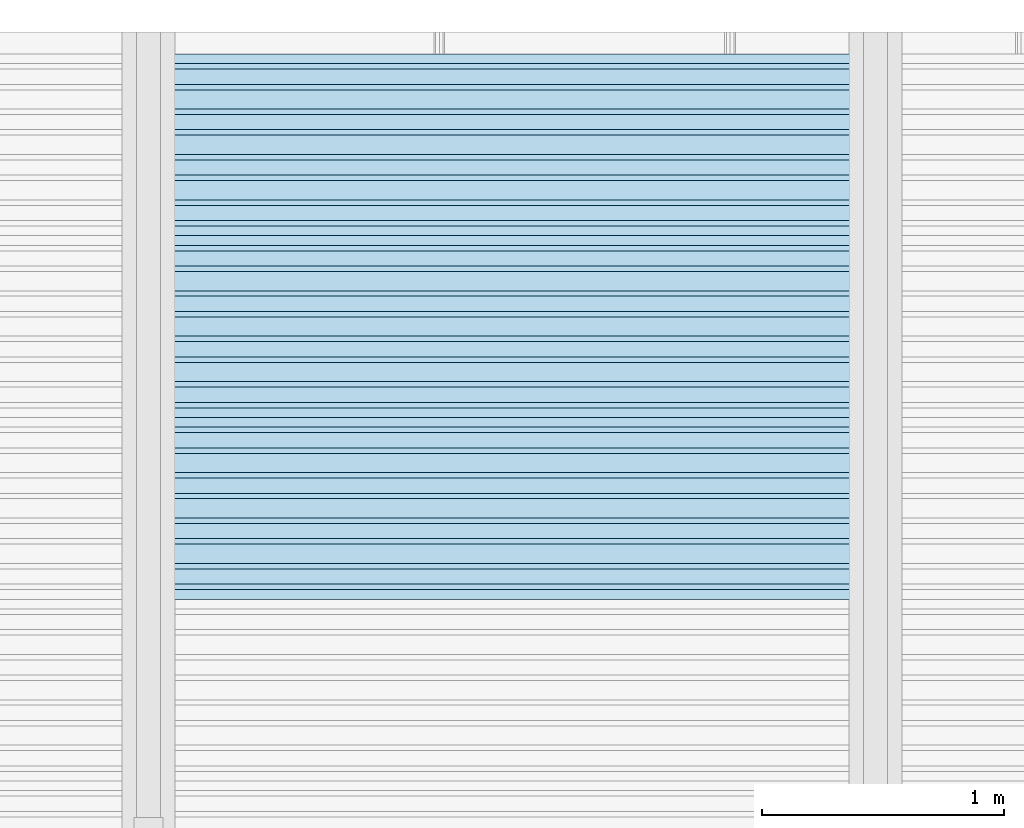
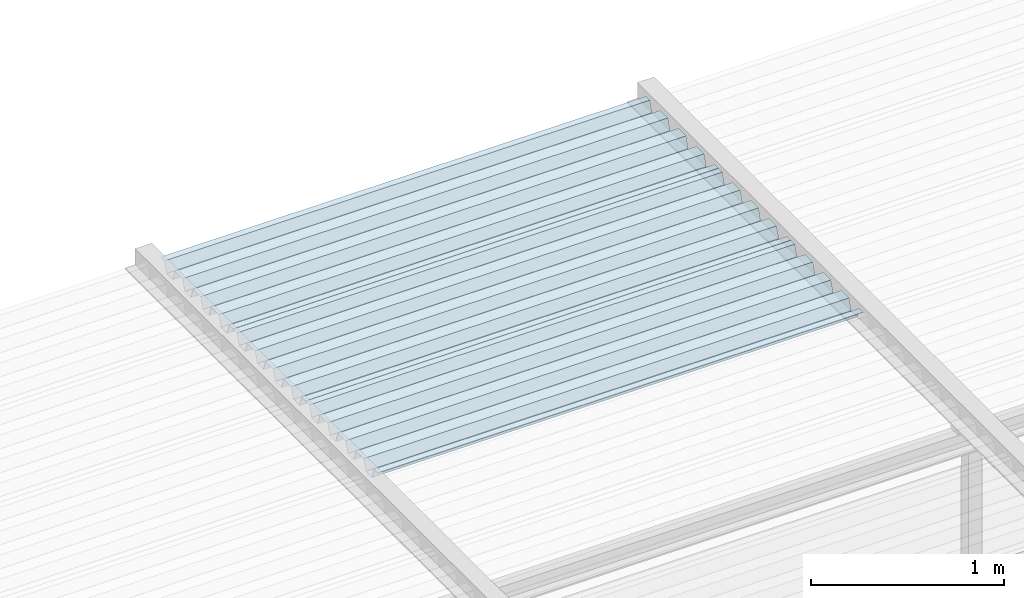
# One storey, part 89 of 98: 3 slabs.
"""IFC2X3 building model written with IfcOpenShell, lengths in millimetres."""

from ifc_helpers import new_model, entity, si_unit, converted_unit, derived_unit, direction, frame, origin_with_axes, place, context, subcontext, project, spatial, faceted_brep, material, type_object, element, save


model = new_model("IFC2X3")

# Units and contexts
model_context = context("Model", 3, precision=0.01, world=frame((0.0, 4.29681676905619e-09, 0.0)), true_north=direction((4.01073788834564e-13, 1.0)))
plan_context = context("Plan", 3, precision=0.01, world=frame((0.0, 4.29681676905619e-09, 0.0)), true_north=direction((4.01073788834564e-13, 1.0)))
body_context = subcontext(model_context, "Body", "Model", "MODEL_VIEW")
ifc_project = project(units=[converted_unit("PLANEANGLEUNIT", "DEGREE", entity("IfcPositiveLengthMeasure", 0.0174532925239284), si_unit("PLANEANGLEUNIT", "RADIAN"), dimensions=[0, 0, 0, 0, 0, 0, 0]), si_unit("AREAUNIT", "SQUARE_METRE"), si_unit("LENGTHUNIT", "METRE", prefix="MILLI"), si_unit("MASSUNIT", "GRAM", prefix="KILO"), si_unit("POWERUNIT", "WATT"), si_unit("PRESSUREUNIT", "PASCAL"), si_unit("FORCEUNIT", "NEWTON", prefix="KILO"), si_unit("ELECTRICCURRENTUNIT", "AMPERE"), si_unit("THERMODYNAMICTEMPERATUREUNIT", "DEGREE_CELSIUS"), si_unit("TIMEUNIT", "SECOND"), si_unit("VOLUMEUNIT", "CUBIC_METRE"), derived_unit("LINEARVELOCITYUNIT", [(si_unit("LENGTHUNIT", "METRE"), 1), (si_unit("TIMEUNIT", "SECOND"), -1)]), derived_unit("VOLUMETRICFLOWRATEUNIT", [(si_unit("VOLUMEUNIT", "CUBIC_METRE"), 1), (si_unit("TIMEUNIT", "SECOND"), -1)]), derived_unit("THERMALTRANSMITTANCEUNIT", [(si_unit("POWERUNIT", "WATT"), 1), (si_unit("THERMODYNAMICTEMPERATUREUNIT", "KELVIN"), -1), (si_unit("AREAUNIT", "SQUARE_METRE"), -1)])], contexts=[model_context, plan_context])

# Site, building, storey
site_placement = place(None, frame((0.0, -4.29681676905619e-09, 0.0), z_axis=(0.0, 0.0, 1.0), x_axis=(1.0, 0.0, 0.0)))
site = spatial("IfcSite", under=ifc_project, at=site_placement, Name="Gardermoen", CompositionType="ELEMENT")
building_placement = place(site_placement, frame((0.0, 4.29681676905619e-09, 0.0), z_axis=(0.0, 0.0, 1.0), x_axis=(1.0, 0.0, 0.0)))
building = spatial("IfcBuilding", under=site, at=building_placement, Name="TS", CompositionType="ELEMENT")
storey_placement = place(building_placement, origin_with_axes())
storey = spatial("IfcBuildingStorey", under=building, at=storey_placement, Name="D", CompositionType="ELEMENT", Elevation=0.0)

# Slabs
ifc_material = material(Name="STEEL/S355")
slab_type = type_object("IfcSlabType", Name="PLANJA70", PredefinedType="NOTDEFINED")
slab_1_placement = place(storey_placement, frame((525950.000000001, 418904.996695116, 206958.849718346), z_axis=(0.0, 0.0, 1.0), x_axis=(-0.999999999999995, -9.99999902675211e-08, 0.0)))
element("IfcSlab", 1, at=slab_1_placement, inside=storey, type_object=slab_type, material=ifc_material, Name="STÅLTAK", ObjectType="PLANJA70", PredefinedType="FLOOR", context=body_context, shape_type="Brep", body=[
    faceted_brep([(0.0, 375.0, 34.1500015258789), (0.0, 335.299987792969, 34.1500015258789), (2900.00079747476, 335.299987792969, 34.1500015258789), (2900.00079747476, 375.0, 34.1500015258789), (0.0, 313.010681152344, -32.1500015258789), (2900.00079747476, 313.010681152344, -32.1500015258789), (0.0, 249.489303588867, -32.1500015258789), (2900.00079747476, 249.489303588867, -32.1500015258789), (0.0, 227.199996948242, 34.1500015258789), (2900.00079747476, 227.199996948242, 34.1500015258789), (0.0, 147.800003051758, 34.1500015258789), (2900.00079747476, 147.800003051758, 34.1500015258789), (0.0, 125.280120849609, -33.1500015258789), (2900.00079747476, 125.280120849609, -33.1500015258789), (0.0, 62.2198791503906, -33.1500015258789), (2900.00079747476, 62.2198791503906, -33.1500015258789), (0.0, 39.7000007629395, 34.1500015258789), (2900.00079747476, 39.7000007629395, 34.1500015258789), (0.0, -39.7000007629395, 34.1500015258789), (2900.00079747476, -39.7000007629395, 34.1500015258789), (0.0, -62.2198791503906, -33.1500015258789), (2900.00079747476, -62.2198791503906, -33.1500015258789), (0.0, -125.280120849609, -33.1500015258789), (2900.00079747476, -125.280120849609, -33.1500015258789), (0.0, -147.800003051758, 34.1500015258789), (2900.00079747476, -147.800003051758, 34.1500015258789), (0.0, -227.199996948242, 34.1500015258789), (2900.00079747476, -227.199996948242, 34.1500015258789), (0.0, -249.719879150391, -33.1500015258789), (2900.00079747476, -249.719879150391, -33.1500015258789), (0.0, -312.781188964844, -33.1500015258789), (2900.00079747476, -312.781188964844, -33.1500015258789), (0.0, -335.070495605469, 33.1500015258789), (2900.00079747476, -335.070495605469, 33.1500015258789), (0.0, -375.0, 33.1500015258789), (2900.00079747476, -375.0, 33.1500015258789), (0.0, -375.0, 32.1500015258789), (2900.00079747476, -375.0, 32.1500015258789), (0.0, -335.789306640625, 32.1500015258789), (2900.00079747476, -335.789306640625, 32.1500015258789), (0.0, -313.5, -34.1500015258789), (2900.00079747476, -313.5, -34.1500015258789), (0.0, -249.0, -34.1500015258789), (2900.00079747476, -249.0, -34.1500015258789), (0.0, -226.480117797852, 33.1500015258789), (2900.00079747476, -226.480117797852, 33.1500015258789), (0.0, -148.519882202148, 33.1500015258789), (2900.00079747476, -148.519882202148, 33.1500015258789), (0.0, -126.0, -34.1500015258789), (2900.00079747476, -126.0, -34.1500015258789), (0.0, -61.5, -34.1500015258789), (2900.00079747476, -61.5, -34.1500015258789), (0.0, -38.9801177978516, 33.1500015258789), (2900.00079747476, -38.9801177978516, 33.1500015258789), (0.0, 38.9801177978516, 33.1500015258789), (2900.00079747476, 38.9801177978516, 33.1500015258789), (0.0, 61.5, -34.1500015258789), (2900.00079747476, 61.5, -34.1500015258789), (0.0, 126.0, -34.1500015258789), (2900.00079747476, 126.0, -34.1500015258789), (0.0, 148.519882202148, 33.1500015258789), (2900.00079747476, 148.519882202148, 33.1500015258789), (0.0, 226.481185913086, 33.1500015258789), (2900.00079747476, 226.481185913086, 33.1500015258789), (0.0, 248.770492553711, -33.1500015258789), (2900.00079747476, 248.770492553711, -33.1500015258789), (0.0, 313.7294921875, -33.1500015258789), (2900.00079747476, 313.7294921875, -33.1500015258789), (0.0, 336.018798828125, 33.1500015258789), (2900.00079747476, 336.018798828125, 33.1500015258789), (0.0, 375.0, 33.1500015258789), (2900.00079747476, 375.0, 33.1500015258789)], [[[0, 1, 2, 3]], [[1, 4, 5, 2]], [[4, 6, 7, 5]], [[6, 8, 9, 7]], [[8, 10, 11, 9]], [[10, 12, 13, 11]], [[12, 14, 15, 13]], [[14, 16, 17, 15]], [[16, 18, 19, 17]], [[18, 20, 21, 19]], [[22, 23, 21, 20]], [[22, 24, 25, 23]], [[24, 26, 27, 25]], [[26, 28, 29, 27]], [[28, 30, 31, 29]], [[30, 32, 33, 31]], [[32, 34, 35, 33]], [[34, 36, 37, 35]], [[36, 38, 39, 37]], [[38, 40, 41, 39]], [[40, 42, 43, 41]], [[42, 44, 45, 43]], [[44, 46, 47, 45]], [[46, 48, 49, 47]], [[48, 50, 51, 49]], [[50, 52, 53, 51]], [[52, 54, 55, 53]], [[54, 56, 57, 55]], [[56, 58, 59, 57]], [[58, 60, 61, 59]], [[60, 62, 63, 61]], [[62, 64, 65, 63]], [[64, 66, 67, 65]], [[66, 68, 69, 67]], [[68, 70, 71, 69]], [[70, 0, 3, 71]], [[5, 7, 9, 11, 13, 15, 17, 19, 21, 23, 25, 27, 29, 31, 33, 35, 37, 39, 41, 43, 45, 47, 49, 51, 53, 55, 57, 59, 61, 63, 65, 67, 69, 71, 3, 2]], [[70, 68, 66, 64, 62, 60, 58, 56, 54, 52, 50, 48, 46, 44, 42, 40, 38, 36, 34, 32, 30, 28, 26, 24, 22, 20, 18, 16, 14, 12, 10, 8, 6, 4, 1, 0]]]),
])
slab_2_placement = place(storey_placement, frame((525950.000000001, 419654.996695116, 206958.849718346), z_axis=(0.0, 0.0, 1.0), x_axis=(-0.999999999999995, -9.99999902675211e-08, 0.0)))
element("IfcSlab", 2, at=slab_2_placement, inside=storey, type_object=slab_type, material=ifc_material, Name="STÅLTAK", ObjectType="PLANJA70", PredefinedType="FLOOR", context=body_context, shape_type="Brep", body=[
    faceted_brep([(0.0, 375.0, 34.1500015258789), (0.0, 335.299987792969, 34.1500015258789), (2900.00079747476, 335.299987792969, 34.1500015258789), (2900.00079747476, 375.0, 34.1500015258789), (0.0, 313.010681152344, -32.1500015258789), (2900.00079747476, 313.010681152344, -32.1500015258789), (0.0, 249.489303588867, -32.1500015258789), (2900.00079747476, 249.489303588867, -32.1500015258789), (0.0, 227.199996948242, 34.1500015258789), (2900.00079747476, 227.199996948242, 34.1500015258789), (0.0, 147.800003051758, 34.1500015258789), (2900.00079747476, 147.800003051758, 34.1500015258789), (0.0, 125.280120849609, -33.1500015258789), (2900.00079747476, 125.280120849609, -33.1500015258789), (0.0, 62.2198791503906, -33.1500015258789), (2900.00079747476, 62.2198791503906, -33.1500015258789), (0.0, 39.7000007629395, 34.1500015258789), (2900.00079747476, 39.7000007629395, 34.1500015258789), (0.0, -39.7000007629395, 34.1500015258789), (2900.00079747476, -39.7000007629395, 34.1500015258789), (0.0, -62.2198791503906, -33.1500015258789), (2900.00079747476, -62.2198791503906, -33.1500015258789), (0.0, -125.280120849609, -33.1500015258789), (2900.00079747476, -125.280120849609, -33.1500015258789), (0.0, -147.800003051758, 34.1500015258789), (2900.00079747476, -147.800003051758, 34.1500015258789), (0.0, -227.199996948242, 34.1500015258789), (2900.00079747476, -227.199996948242, 34.1500015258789), (0.0, -249.719879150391, -33.1500015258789), (2900.00079747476, -249.719879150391, -33.1500015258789), (0.0, -312.781188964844, -33.1500015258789), (2900.00079747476, -312.781188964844, -33.1500015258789), (0.0, -335.070495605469, 33.1500015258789), (2900.00079747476, -335.070495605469, 33.1500015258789), (0.0, -375.0, 33.1500015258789), (2900.00079747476, -375.0, 33.1500015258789), (0.0, -375.0, 32.1500015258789), (2900.00079747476, -375.0, 32.1500015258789), (0.0, -335.789306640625, 32.1500015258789), (2900.00079747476, -335.789306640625, 32.1500015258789), (0.0, -313.5, -34.1500015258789), (2900.00079747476, -313.5, -34.1500015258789), (0.0, -249.0, -34.1500015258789), (2900.00079747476, -249.0, -34.1500015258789), (0.0, -226.480117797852, 33.1500015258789), (2900.00079747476, -226.480117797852, 33.1500015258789), (0.0, -148.519882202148, 33.1500015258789), (2900.00079747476, -148.519882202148, 33.1500015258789), (0.0, -126.0, -34.1500015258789), (2900.00079747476, -126.0, -34.1500015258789), (0.0, -61.5, -34.1500015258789), (2900.00079747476, -61.5, -34.1500015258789), (0.0, -38.9801177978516, 33.1500015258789), (2900.00079747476, -38.9801177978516, 33.1500015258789), (0.0, 38.9801177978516, 33.1500015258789), (2900.00079747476, 38.9801177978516, 33.1500015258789), (0.0, 61.5, -34.1500015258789), (2900.00079747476, 61.5, -34.1500015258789), (0.0, 126.0, -34.1500015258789), (2900.00079747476, 126.0, -34.1500015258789), (0.0, 148.519882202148, 33.1500015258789), (2900.00079747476, 148.519882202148, 33.1500015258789), (0.0, 226.481185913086, 33.1500015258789), (2900.00079747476, 226.481185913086, 33.1500015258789), (0.0, 248.770492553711, -33.1500015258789), (2900.00079747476, 248.770492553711, -33.1500015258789), (0.0, 313.7294921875, -33.1500015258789), (2900.00079747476, 313.7294921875, -33.1500015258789), (0.0, 336.018798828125, 33.1500015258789), (2900.00079747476, 336.018798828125, 33.1500015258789), (0.0, 375.0, 33.1500015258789), (2900.00079747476, 375.0, 33.1500015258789)], [[[0, 1, 2, 3]], [[1, 4, 5, 2]], [[4, 6, 7, 5]], [[6, 8, 9, 7]], [[8, 10, 11, 9]], [[10, 12, 13, 11]], [[12, 14, 15, 13]], [[14, 16, 17, 15]], [[16, 18, 19, 17]], [[18, 20, 21, 19]], [[22, 23, 21, 20]], [[22, 24, 25, 23]], [[24, 26, 27, 25]], [[26, 28, 29, 27]], [[28, 30, 31, 29]], [[30, 32, 33, 31]], [[32, 34, 35, 33]], [[34, 36, 37, 35]], [[36, 38, 39, 37]], [[38, 40, 41, 39]], [[40, 42, 43, 41]], [[42, 44, 45, 43]], [[44, 46, 47, 45]], [[46, 48, 49, 47]], [[48, 50, 51, 49]], [[50, 52, 53, 51]], [[52, 54, 55, 53]], [[54, 56, 57, 55]], [[56, 58, 59, 57]], [[58, 60, 61, 59]], [[60, 62, 63, 61]], [[62, 64, 65, 63]], [[64, 66, 67, 65]], [[66, 68, 69, 67]], [[68, 70, 71, 69]], [[70, 0, 3, 71]], [[5, 7, 9, 11, 13, 15, 17, 19, 21, 23, 25, 27, 29, 31, 33, 35, 37, 39, 41, 43, 45, 47, 49, 51, 53, 55, 57, 59, 61, 63, 65, 67, 69, 71, 3, 2]], [[70, 68, 66, 64, 62, 60, 58, 56, 54, 52, 50, 48, 46, 44, 42, 40, 38, 36, 34, 32, 30, 28, 26, 24, 22, 20, 18, 16, 14, 12, 10, 8, 6, 4, 1, 0]]]),
])
slab_3_placement = place(storey_placement, frame((525950.000000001, 420404.996695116, 206958.849718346), z_axis=(0.0, 0.0, 1.0), x_axis=(-0.999999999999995, -9.99999902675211e-08, 0.0)))
element("IfcSlab", 3, at=slab_3_placement, inside=storey, type_object=slab_type, material=ifc_material, Name="STÅLTAK", ObjectType="PLANJA70", PredefinedType="FLOOR", context=body_context, shape_type="Brep", body=[
    faceted_brep([(0.0, 375.0, 34.1500015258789), (0.0, 335.299987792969, 34.1500015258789), (2900.00079747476, 335.299987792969, 34.1500015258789), (2900.00079747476, 375.0, 34.1500015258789), (0.0, 313.010681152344, -32.1500015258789), (2900.00079747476, 313.010681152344, -32.1500015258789), (0.0, 249.489303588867, -32.1500015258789), (2900.00079747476, 249.489303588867, -32.1500015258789), (0.0, 227.199996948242, 34.1500015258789), (2900.00079747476, 227.199996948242, 34.1500015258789), (0.0, 147.800003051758, 34.1500015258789), (2900.00079747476, 147.800003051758, 34.1500015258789), (0.0, 125.280120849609, -33.1500015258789), (2900.00079747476, 125.280120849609, -33.1500015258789), (0.0, 62.2198791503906, -33.1500015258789), (2900.00079747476, 62.2198791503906, -33.1500015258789), (0.0, 39.7000007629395, 34.1500015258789), (2900.00079747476, 39.7000007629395, 34.1500015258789), (0.0, -39.7000007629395, 34.1500015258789), (2900.00079747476, -39.7000007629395, 34.1500015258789), (0.0, -62.2198791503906, -33.1500015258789), (2900.00079747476, -62.2198791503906, -33.1500015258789), (0.0, -125.280120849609, -33.1500015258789), (2900.00079747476, -125.280120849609, -33.1500015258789), (0.0, -147.800003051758, 34.1500015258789), (2900.00079747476, -147.800003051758, 34.1500015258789), (0.0, -227.199996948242, 34.1500015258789), (2900.00079747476, -227.199996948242, 34.1500015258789), (0.0, -249.719879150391, -33.1500015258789), (2900.00079747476, -249.719879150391, -33.1500015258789), (0.0, -312.781188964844, -33.1500015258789), (2900.00079747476, -312.781188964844, -33.1500015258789), (0.0, -335.070495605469, 33.1500015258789), (2900.00079747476, -335.070495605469, 33.1500015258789), (0.0, -375.0, 33.1500015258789), (2900.00079747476, -375.0, 33.1500015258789), (0.0, -375.0, 32.1500015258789), (2900.00079747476, -375.0, 32.1500015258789), (0.0, -335.789306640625, 32.1500015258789), (2900.00079747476, -335.789306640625, 32.1500015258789), (0.0, -313.5, -34.1500015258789), (2900.00079747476, -313.5, -34.1500015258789), (0.0, -249.0, -34.1500015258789), (2900.00079747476, -249.0, -34.1500015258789), (0.0, -226.480117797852, 33.1500015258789), (2900.00079747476, -226.480117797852, 33.1500015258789), (0.0, -148.519882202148, 33.1500015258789), (2900.00079747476, -148.519882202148, 33.1500015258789), (0.0, -126.0, -34.1500015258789), (2900.00079747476, -126.0, -34.1500015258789), (0.0, -61.5, -34.1500015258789), (2900.00079747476, -61.5, -34.1500015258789), (0.0, -38.9801177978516, 33.1500015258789), (2900.00079747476, -38.9801177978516, 33.1500015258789), (0.0, 38.9801177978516, 33.1500015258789), (2900.00079747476, 38.9801177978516, 33.1500015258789), (0.0, 61.5, -34.1500015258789), (2900.00079747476, 61.5, -34.1500015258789), (0.0, 126.0, -34.1500015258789), (2900.00079747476, 126.0, -34.1500015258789), (0.0, 148.519882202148, 33.1500015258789), (2900.00079747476, 148.519882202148, 33.1500015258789), (0.0, 226.481185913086, 33.1500015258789), (2900.00079747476, 226.481185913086, 33.1500015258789), (0.0, 248.770492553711, -33.1500015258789), (2900.00079747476, 248.770492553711, -33.1500015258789), (0.0, 313.7294921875, -33.1500015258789), (2900.00079747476, 313.7294921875, -33.1500015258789), (0.0, 336.018798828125, 33.1500015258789), (2900.00079747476, 336.018798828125, 33.1500015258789), (0.0, 375.0, 33.1500015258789), (2900.00079747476, 375.0, 33.1500015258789)], [[[0, 1, 2, 3]], [[1, 4, 5, 2]], [[4, 6, 7, 5]], [[6, 8, 9, 7]], [[8, 10, 11, 9]], [[10, 12, 13, 11]], [[12, 14, 15, 13]], [[14, 16, 17, 15]], [[16, 18, 19, 17]], [[18, 20, 21, 19]], [[22, 23, 21, 20]], [[22, 24, 25, 23]], [[24, 26, 27, 25]], [[26, 28, 29, 27]], [[28, 30, 31, 29]], [[30, 32, 33, 31]], [[32, 34, 35, 33]], [[34, 36, 37, 35]], [[36, 38, 39, 37]], [[38, 40, 41, 39]], [[40, 42, 43, 41]], [[42, 44, 45, 43]], [[44, 46, 47, 45]], [[46, 48, 49, 47]], [[48, 50, 51, 49]], [[50, 52, 53, 51]], [[52, 54, 55, 53]], [[54, 56, 57, 55]], [[56, 58, 59, 57]], [[58, 60, 61, 59]], [[60, 62, 63, 61]], [[62, 64, 65, 63]], [[64, 66, 67, 65]], [[66, 68, 69, 67]], [[68, 70, 71, 69]], [[70, 0, 3, 71]], [[5, 7, 9, 11, 13, 15, 17, 19, 21, 23, 25, 27, 29, 31, 33, 35, 37, 39, 41, 43, 45, 47, 49, 51, 53, 55, 57, 59, 61, 63, 65, 67, 69, 71, 3, 2]], [[70, 68, 66, 64, 62, 60, 58, 56, 54, 52, 50, 48, 46, 44, 42, 40, 38, 36, 34, 32, 30, 28, 26, 24, 22, 20, 18, 16, 14, 12, 10, 8, 6, 4, 1, 0]]]),
])

save(model, "model.ifc")
